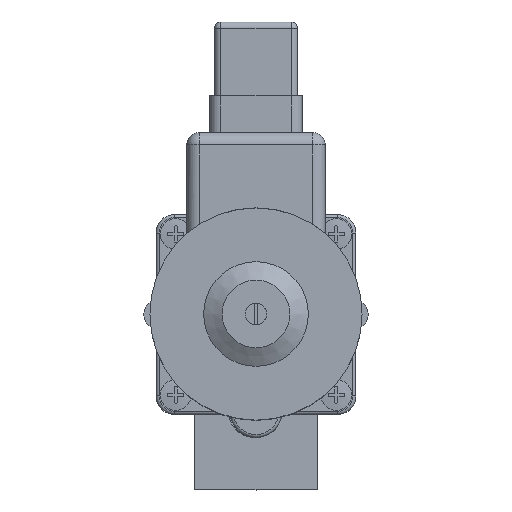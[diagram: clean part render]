
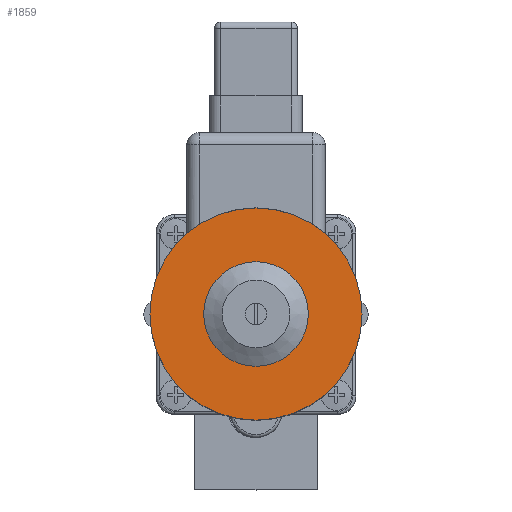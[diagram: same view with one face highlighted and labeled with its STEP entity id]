
A CAD part, top view. The second image highlights one B-rep face of the part: STEP entity #1859.
In plain terms, the highlighted planar face has unit normal (0, 0, 1).
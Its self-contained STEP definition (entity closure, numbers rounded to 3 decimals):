
#1859 = ADVANCED_FACE( '', ( #3078, #3079 ), #3080, .F. );
#3078 = FACE_BOUND( '', #7219, .T. );
#3079 = FACE_OUTER_BOUND( '', #7220, .T. );
#3080 = PLANE( '', #7221 );
#7219 = EDGE_LOOP( '', ( #10206 ) );
#7220 = EDGE_LOOP( '', ( #10207 ) );
#7221 = AXIS2_PLACEMENT_3D( '', #10208, #10209, #10210 );
#10206 = ORIENTED_EDGE( '', *, *, #11441, .T. );
#10207 = ORIENTED_EDGE( '', *, *, #11432, .F. );
#10208 = CARTESIAN_POINT( '', ( 0., 0., 60. ) );
#10209 = DIRECTION( '', ( 0., 0., -1. ) );
#10210 = DIRECTION( '', ( -1., 0., 0. ) );
#11432 = EDGE_CURVE( '', #12929, #12929, #12930, .T. );
#11441 = EDGE_CURVE( '', #12946, #12946, #12947, .T. );
#12929 = VERTEX_POINT( '', #17323 );
#12930 = CIRCLE( '', #17324, 34.5 );
#12946 = VERTEX_POINT( '', #17389 );
#12947 = CIRCLE( '', #17390, 13.75 );
#17323 = CARTESIAN_POINT( '', ( 34.5, 0., 60. ) );
#17324 = AXIS2_PLACEMENT_3D( '', #19221, #19222, #19223 );
#17389 = CARTESIAN_POINT( '', ( 13.75, 0., 60. ) );
#17390 = AXIS2_PLACEMENT_3D( '', #19235, #19236, #19237 );
#19221 = CARTESIAN_POINT( '', ( 0., 0., 60. ) );
#19222 = DIRECTION( '', ( 0., 0., -1. ) );
#19223 = DIRECTION( '', ( 1., 0., 0. ) );
#19235 = CARTESIAN_POINT( '', ( 0., 0., 60. ) );
#19236 = DIRECTION( '', ( 0., 0., -1. ) );
#19237 = DIRECTION( '', ( 1., 0., 0. ) );
